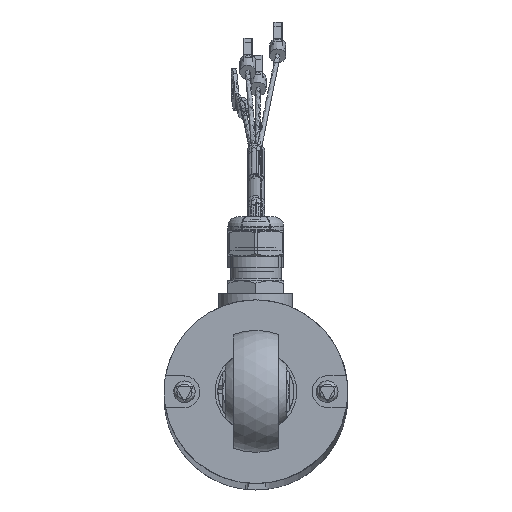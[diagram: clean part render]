
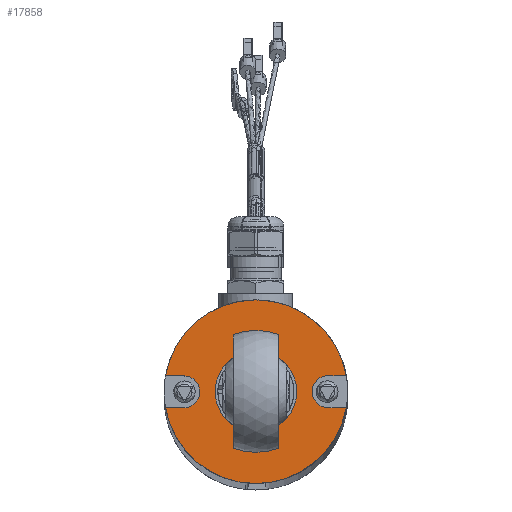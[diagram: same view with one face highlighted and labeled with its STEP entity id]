
A CAD part, top view. The second image highlights one B-rep face of the part: STEP entity #17858.
In plain terms, the highlighted planar face has unit normal (0, 0, 1).
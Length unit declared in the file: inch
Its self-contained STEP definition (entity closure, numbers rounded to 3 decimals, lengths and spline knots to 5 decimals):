
#1082=LINE('',#26156,#2233);
#1085=LINE('',#26162,#2236);
#1090=LINE('',#26180,#2241);
#1092=LINE('',#26183,#2243);
#2233=VECTOR('',#21247,0.3937);
#2236=VECTOR('',#21252,0.3937);
#2241=VECTOR('',#21273,0.3937);
#2243=VECTOR('',#21277,0.3937);
#3600=FACE_BOUND('',#4865,.T.);
#3789=FACE_OUTER_BOUND('',#4864,.T.);
#4864=EDGE_LOOP('',(#11389,#11390,#11391,#11392,#11393,#11394,#11395,#11396,
#11397));
#4865=EDGE_LOOP('',(#11398));
#5993=CIRCLE('',#19211,0.70866);
#6004=CIRCLE('',#19230,0.70866);
#6006=CIRCLE('',#19232,0.70866);
#6012=CIRCLE('',#19243,0.12303);
#6014=CIRCLE('',#19247,0.12303);
#6016=CIRCLE('',#19253,0.15945);
#6831=VERTEX_POINT('',#26062);
#6832=VERTEX_POINT('',#26064);
#6847=VERTEX_POINT('',#26129);
#6850=VERTEX_POINT('',#26135);
#6851=VERTEX_POINT('',#26137);
#6857=VERTEX_POINT('',#26155);
#6859=VERTEX_POINT('',#26161);
#6861=VERTEX_POINT('',#26171);
#6862=VERTEX_POINT('',#26172);
#6865=VERTEX_POINT('',#26187);
#8556=EDGE_CURVE('',#6832,#6831,#5993,.T.);
#8580=EDGE_CURVE('',#6847,#6832,#6004,.T.);
#8584=EDGE_CURVE('',#6851,#6850,#6006,.T.);
#8593=EDGE_CURVE('',#6857,#6851,#1082,.T.);
#8596=EDGE_CURVE('',#6831,#6859,#1085,.T.);
#8599=EDGE_CURVE('',#6859,#6857,#6012,.T.);
#8601=EDGE_CURVE('',#6861,#6862,#6014,.T.);
#8605=EDGE_CURVE('',#6862,#6847,#1090,.T.);
#8607=EDGE_CURVE('',#6850,#6861,#1092,.T.);
#8609=EDGE_CURVE('',#6865,#6865,#6016,.T.);
#11389=ORIENTED_EDGE('',*,*,#8596,.T.);
#11390=ORIENTED_EDGE('',*,*,#8599,.T.);
#11391=ORIENTED_EDGE('',*,*,#8593,.T.);
#11392=ORIENTED_EDGE('',*,*,#8584,.T.);
#11393=ORIENTED_EDGE('',*,*,#8607,.T.);
#11394=ORIENTED_EDGE('',*,*,#8601,.T.);
#11395=ORIENTED_EDGE('',*,*,#8605,.T.);
#11396=ORIENTED_EDGE('',*,*,#8580,.T.);
#11397=ORIENTED_EDGE('',*,*,#8556,.T.);
#11398=ORIENTED_EDGE('',*,*,#8609,.T.);
#16260=PLANE('',#19252);
#17858=ADVANCED_FACE('',(#3789,#3600),#16260,.T.);
#19211=AXIS2_PLACEMENT_3D('',#26065,#21171,#21172);
#19230=AXIS2_PLACEMENT_3D('',#26130,#21220,#21221);
#19232=AXIS2_PLACEMENT_3D('',#26138,#21226,#21227);
#19243=AXIS2_PLACEMENT_3D('',#26167,#21257,#21258);
#19247=AXIS2_PLACEMENT_3D('',#26173,#21265,#21266);
#19252=AXIS2_PLACEMENT_3D('',#26186,#21281,#21282);
#19253=AXIS2_PLACEMENT_3D('',#26188,#21283,#21284);
#21171=DIRECTION('center_axis',(0.,0.,1.));
#21172=DIRECTION('ref_axis',(1.,0.,0.));
#21220=DIRECTION('center_axis',(0.,0.,1.));
#21221=DIRECTION('ref_axis',(1.,0.,0.));
#21226=DIRECTION('center_axis',(0.,0.,1.));
#21227=DIRECTION('ref_axis',(1.,0.,0.));
#21247=DIRECTION('',(-1.,-0.001,0.));
#21252=DIRECTION('',(1.,0.001,0.));
#21257=DIRECTION('center_axis',(0.,0.,-1.));
#21258=DIRECTION('ref_axis',(-0.001,1.,0.));
#21265=DIRECTION('center_axis',(0.,0.,-1.));
#21266=DIRECTION('ref_axis',(0.001,-1.,0.));
#21273=DIRECTION('',(1.,0.001,0.));
#21277=DIRECTION('',(-1.,-0.001,0.));
#21281=DIRECTION('center_axis',(0.,0.,1.));
#21282=DIRECTION('ref_axis',(1.,0.,0.));
#21283=DIRECTION('center_axis',(0.,0.,-1.));
#21284=DIRECTION('ref_axis',(1.,0.,0.));
#26062=CARTESIAN_POINT('',(-0.69806,0.12214,0.59055));
#26064=CARTESIAN_POINT('',(0.,0.70866,0.59055));
#26065=CARTESIAN_POINT('Origin',(0.,0.,0.59055));
#26129=CARTESIAN_POINT('',(0.69774,0.12392,0.59055));
#26130=CARTESIAN_POINT('Origin',(0.,0.,0.59055));
#26135=CARTESIAN_POINT('',(0.69806,-0.12214,0.59055));
#26137=CARTESIAN_POINT('',(-0.69774,-0.12392,0.59055));
#26138=CARTESIAN_POINT('Origin',(0.,0.,0.59055));
#26155=CARTESIAN_POINT('',(-0.55595,-0.12374,0.59055));
#26156=CARTESIAN_POINT('',(-0.34879,-0.12348,0.59055));
#26161=CARTESIAN_POINT('',(-0.55626,0.12232,0.59055));
#26162=CARTESIAN_POINT('',(-0.27821,0.12268,0.59055));
#26167=CARTESIAN_POINT('Origin',(-0.5561,-0.00071,
0.59055));
#26171=CARTESIAN_POINT('',(0.55626,-0.12232,0.59055));
#26172=CARTESIAN_POINT('',(0.55595,0.12374,0.59055));
#26173=CARTESIAN_POINT('Origin',(0.5561,0.00071,
0.59055));
#26180=CARTESIAN_POINT('',(0.34879,0.12348,0.59055));
#26183=CARTESIAN_POINT('',(0.27821,-0.12268,0.59055));
#26186=CARTESIAN_POINT('Origin',(0.,0.,0.59055));
#26187=CARTESIAN_POINT('',(-0.15945,0.,0.59055));
#26188=CARTESIAN_POINT('Origin',(0.,0.,0.59055));
